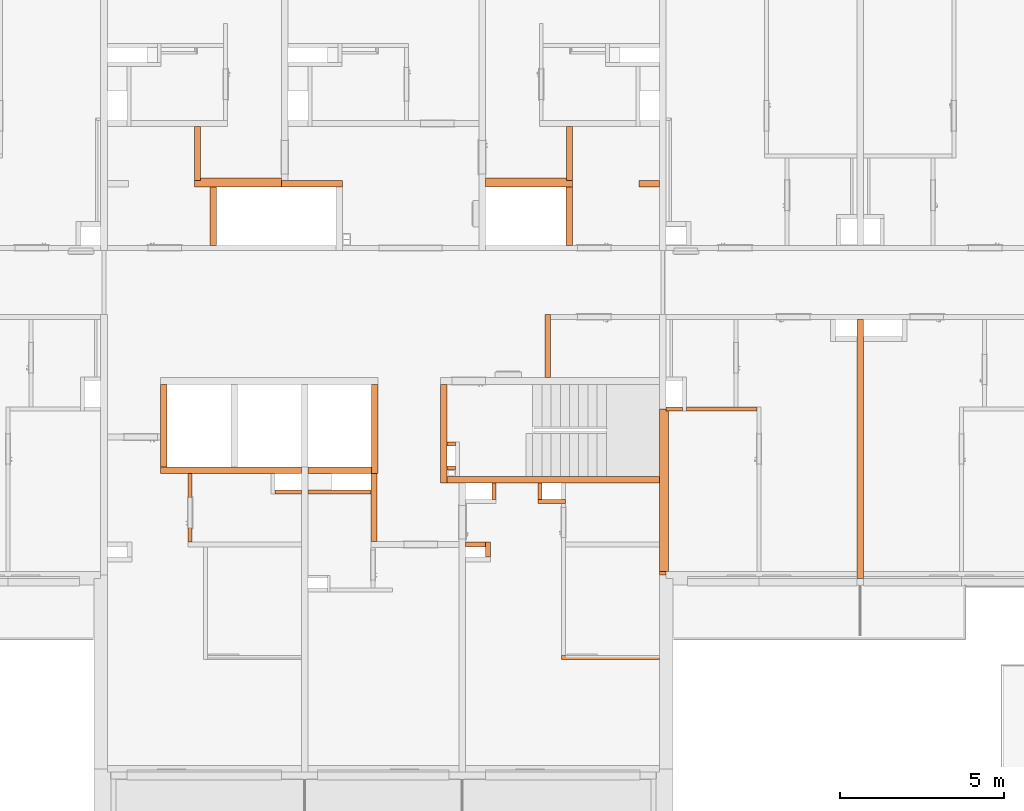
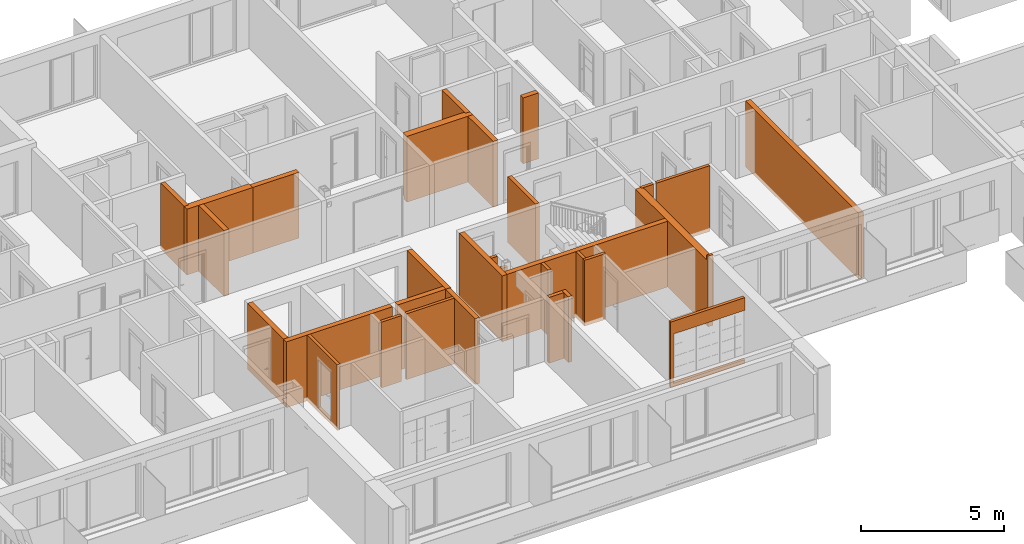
# One storey, part 59 of 66: 29 proxies, 3 openings.
"""IFC2X3 building model written with IfcOpenShell, lengths in millimetres."""

from ifc_helpers import new_model, entity, si_unit, converted_unit, derived_unit, money_unit, direction, frame, origin_with_axes, origin_2d_with_axis, place, context, subcontext, project, spatial, rectangle, extrude, faceted_brep, material, material_list, type_object, element, save


model = new_model("IFC2X3")

# Units and contexts
model_context = context("Model", 3, precision=0.01, world=origin_with_axes(), true_north=direction((0.34421633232, 0.938890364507)))
body_context = subcontext(model_context, "Body", "Model", "MODEL_VIEW")
ifc_project = project(units=[si_unit("LENGTHUNIT", "METRE", prefix="MILLI"), si_unit("AREAUNIT", "SQUARE_METRE"), si_unit("VOLUMEUNIT", "CUBIC_METRE"), converted_unit("PLANEANGLEUNIT", "DEGREE", entity("IfcPlaneAngleMeasure", 0.0174532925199), si_unit("PLANEANGLEUNIT", "RADIAN"), dimensions=[0, 0, 0, 0, 0, 0, 0]), si_unit("SOLIDANGLEUNIT", "STERADIAN"), money_unit("USD"), converted_unit("TIMEUNIT", "Year", entity("IfcTimeMeasure", 31556926.0), si_unit("TIMEUNIT", "SECOND"), dimensions=[0, 0, 1, 0, 0, 0, 0]), si_unit("MASSUNIT", "GRAM", prefix="KILO"), si_unit("THERMODYNAMICTEMPERATUREUNIT", "DEGREE_CELSIUS"), si_unit("LUMINOUSINTENSITYUNIT", "LUMEN"), si_unit("ENERGYUNIT", "JOULE", prefix="MEGA"), derived_unit("THERMALCONDUCTANCEUNIT", [(si_unit("POWERUNIT", "WATT"), 1), (si_unit("LENGTHUNIT", "METRE"), -1), (si_unit("THERMODYNAMICTEMPERATUREUNIT", "KELVIN"), -1)]), derived_unit("SPECIFICHEATCAPACITYUNIT", [(si_unit("ENERGYUNIT", "JOULE"), 1), (si_unit("MASSUNIT", "GRAM", prefix="KILO"), -1), (si_unit("THERMODYNAMICTEMPERATUREUNIT", "KELVIN"), -1)]), derived_unit("MASSDENSITYUNIT", [(si_unit("MASSUNIT", "GRAM", prefix="KILO"), 1), (si_unit("VOLUMEUNIT", "CUBIC_METRE"), -1)])], contexts=[model_context])

# Site, building, storey
site_placement = place(None, origin_with_axes())
site = spatial("IfcSite", under=ifc_project, at=site_placement, Name="USTRONIE MORSKIE", CompositionType="ELEMENT")
building_placement = place(site_placement, origin_with_axes())
building = spatial("IfcBuilding", under=site, at=building_placement, Name="Budynek", CompositionType="ELEMENT")
storey_placement = place(building_placement, frame((0.0, 0.0, 10000.0), z_axis=(0.0, 0.0, 1.0), x_axis=(1.0, 0.0, 0.0)))
storey = spatial("IfcBuildingStorey", under=building, at=storey_placement, Name="PIĘTRO 3", CompositionType="ELEMENT", Elevation=10000.0)

# Proxies
ifc_material_1 = material(Name="Bloczki silikatowe")
building_element_proxy_type_1 = type_object("IfcBuildingElementProxyType", Name="Bloczki silikatowe 120", PredefinedType="NOTDEFINED")
proxy_1_placement = place(storey_placement, frame((389757.920919, 730821.199036, -230.0), z_axis=(0.0, 0.0, 1.0), x_axis=(1.0, 0.0, 0.0)))
element("IfcBuildingElementProxy", 1, at=proxy_1_placement, inside=storey, type_object=building_element_proxy_type_1, material=ifc_material_1, Name="SW-04", context=body_context, shape_type="Brep", body=[
    faceted_brep([(250.0, 0.0, 2870.0), (250.0, 0.0, 70.0), (250.0, 120.0, 70.0), (250.0, 120.0, 2870.0), (0.0, 0.0, 2870.0), (0.0, 0.0, 70.0), (0.0, 120.0, 70.0), (0.0, 120.0, 2870.0)], [[[0, 1, 2, 3]], [[4, 5, 1, 0]], [[5, 6, 2, 1]], [[3, 2, 6, 7]], [[4, 0, 3, 7]], [[7, 6, 5, 4]]]),
])
proxy_2_placement = place(storey_placement, frame((391117.92182, 729201.199036, -160.0), z_axis=(0.0, 0.0, 1.0), x_axis=(0.0, 1.0, 0.0)))
element("IfcBuildingElementProxy", 2, at=proxy_2_placement, inside=storey, type_object=building_element_proxy_type_1, material=ifc_material_1, Name="SW-04", context=body_context, shape_type="Brep", body=[
    faceted_brep([(500.0, -120.0, 2800.0), (500.0, 0.0, 2800.0), (0.0, 0.0, 2800.0), (0.0, -120.0, 2800.0), (500.0, -120.0, 0.0), (500.0, 0.0, 0.0), (0.0, 0.0, 0.0), (0.0, -120.0, 0.0)], [[[0, 1, 2, 3]], [[1, 0, 4, 5]], [[1, 5, 6, 2]], [[7, 3, 2, 6]], [[4, 0, 3, 7]], [[5, 4, 7, 6]]]),
])
proxy_3_placement = place(storey_placement, frame((392577.920919, 729201.199036, -160.0), z_axis=(0.0, 0.0, 1.0), x_axis=(0.0, 1.0, 0.0)))
element("IfcBuildingElementProxy", 3, at=proxy_3_placement, inside=storey, type_object=building_element_proxy_type_1, material=ifc_material_1, Name="SW-04", context=body_context, shape_type="Brep", body=[
    faceted_brep([(500.0, 60.0, 0.0), (500.0, -60.0, 0.0), (0.0, -60.0, 0.0), (0.0, 60.0, 0.0), (500.0, 60.0, 2800.0), (500.0, -60.0, 2800.0), (0.0, -60.0, 2800.0), (0.0, 60.0, 2800.0)], [[[0, 1, 2, 3]], [[1, 0, 4, 5]], [[1, 5, 6, 2]], [[7, 3, 2, 6]], [[4, 0, 3, 7]], [[5, 4, 7, 6]]]),
])

# Proxy, opening
proxy_4_placement = place(storey_placement, frame((396317.920919, 724391.199036, -160.0), z_axis=(0.0, 0.0, 1.0), x_axis=(-1.0, 0.0, 0.0)))
proxy_4 = element("IfcBuildingElementProxy", 4, at=proxy_4_placement, inside=storey, type_object=building_element_proxy_type_1, material=ifc_material_1, Name="SW-04", context=body_context, shape_type="Brep", body=[
    faceted_brep([(3080.0, 59.9999999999, 0.0), (3080.0, -59.9999999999, 0.0), (100.0, -59.9999999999, 0.0), (100.0, 59.9999999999, 0.0), (3080.0, 59.9999999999, 2800.0), (3080.0, -59.9999999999, 2800.0), (100.0, -59.9999999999, 2800.0), (100.0, 59.9999999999, 2800.0)], [[[0, 1, 2, 3]], [[1, 0, 4, 5]], [[1, 5, 6, 2]], [[7, 3, 2, 6]], [[4, 0, 3, 7]], [[5, 4, 7, 6]]]),
])
opening_1_placement = place(proxy_4_placement, frame((1530.0, 0.0, 160.0), z_axis=(0.0, 0.0, 1.0), x_axis=(1.0, 0.0, 0.0)))
element("IfcOpeningElement", 5, at=opening_1_placement, cuts=proxy_4, Name="D-WC", context=body_context, shape_type="SweptSolid", body=[
    extrude(rectangle(XDim=2860.0, YDim=2100.0, at=origin_2d_with_axis()), frame((0.0, 120.0, 1050.0), z_axis=(0.0, 1.0, 0.0), x_axis=(-1.0, 0.0, 0.0)), (0.0, 0.0, -1.0), 360.0),
])

# Proxy
proxy_5_placement = place(storey_placement, frame((387527.920919, 729491.199036, -160.0), z_axis=(0.0, 0.0, 1.0), x_axis=(-1.0, 0.0, 0.0)))
element("IfcBuildingElementProxy", 6, at=proxy_5_placement, inside=storey, type_object=building_element_proxy_type_1, material=ifc_material_1, Name="SW-04", context=body_context, shape_type="Brep", body=[
    faceted_brep([(90.0, 0.0, 0.0), (2010.0, 0.0, 0.0), (2010.0, 0.0, 2800.0), (90.0, 0.0, 2800.0), (90.0, 120.0, 0.0), (2010.0, 120.0, 0.0), (2010.0, 120.0, 2800.0), (90.0, 120.0, 2800.0)], [[[0, 1, 2, 3]], [[4, 5, 1, 0]], [[5, 6, 2, 1]], [[3, 2, 6, 7]], [[7, 4, 0, 3]], [[7, 6, 5, 4]]]),
])

# Proxy, opening
proxy_6_placement = place(storey_placement, frame((381937.920919, 727826.199036, -160.0), z_axis=(0.0, 0.0, 1.0), x_axis=(0.0, 1.0, 0.0)))
proxy_6 = element("IfcBuildingElementProxy", 7, at=proxy_6_placement, inside=storey, type_object=building_element_proxy_type_1, material=ifc_material_1, Name="SW-04", context=body_context, shape_type="Brep", body=[
    faceted_brep([(2165.0, 60.0, 0.0), (2165.0, -60.0, 0.0), (75.0, -60.0, 0.0), (75.0, 60.0, 0.0), (2165.0, 60.0, 2800.0), (2165.0, -60.0, 2800.0), (75.0, -60.0, 2800.0), (75.0, 60.0, 2800.0)], [[[0, 1, 2, 3]], [[1, 0, 4, 5]], [[1, 5, 6, 2]], [[7, 3, 2, 6]], [[4, 0, 3, 7]], [[5, 4, 7, 6]]]),
])
opening_2_placement = place(proxy_6_placement, frame((965.0, 0.0, 160.0), z_axis=(0.0, 0.0, 1.0), x_axis=(1.0, 0.0, 0.0)))
element("IfcOpeningElement", 8, at=opening_2_placement, cuts=proxy_6, Name="Dw.4", context=body_context, shape_type="SweptSolid", body=[
    extrude(rectangle(XDim=920.0, YDim=2070.0, at=origin_2d_with_axis()), frame((0.0, -120.0, 1035.0), z_axis=(0.0, 1.0, 0.0), x_axis=(1.0, 0.0, 0.0)), (0.0, 0.0, 1.0), 360.0),
    extrude(rectangle(XDim=994.0, YDim=2177.0, at=origin_2d_with_axis()), frame((0.0, -60.0, 1088.5), z_axis=(0.0, 1.0, 0.0), x_axis=(1.0, 0.0, 0.0)), (0.0, 0.0, -1.0), 120.0),
    extrude(rectangle(XDim=994.0, YDim=2177.0, at=origin_2d_with_axis()), frame((0.0, 60.0, 1088.5), z_axis=(0.0, -1.0, 0.0), x_axis=(1.0, 0.0, 0.0)), (0.0, 0.0, -1.0), 120.0),
])

# Proxies
proxy_7_placement = place(storey_placement, frame((392577.920919, 729201.199036, -160.0), z_axis=(0.0, 0.0, 1.0), x_axis=(1.0, 0.0, 0.0)))
element("IfcBuildingElementProxy", 9, at=proxy_7_placement, inside=storey, type_object=building_element_proxy_type_1, material=ifc_material_1, Name="SW-04", context=body_context, shape_type="Brep", body=[
    faceted_brep([(780.0, -120.0, 2800.0), (780.0, 0.0, 2800.0), (-60.0, 0.0, 2800.0), (-60.0, -120.0, 2800.0), (780.0, -120.0, 0.0), (780.0, 0.0, 0.0), (-60.0, 0.0, 0.0), (-60.0, -120.0, 0.0)], [[[0, 1, 2, 3]], [[1, 0, 4, 5]], [[1, 5, 6, 2]], [[7, 3, 2, 6]], [[4, 0, 3, 7]], [[5, 4, 7, 6]]]),
])
proxy_8_placement = place(storey_placement, frame((396317.920919, 731951.199132, -160.0), z_axis=(0.0, 0.0, 1.0), x_axis=(1.0, 0.0, 0.0)))
element("IfcBuildingElementProxy", 10, at=proxy_8_placement, inside=storey, type_object=building_element_proxy_type_1, material=ifc_material_1, Name="SW-04", context=body_context, shape_type="Brep", body=[
    faceted_brep([(600.004475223, 59.9999999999, 0.0), (100.0, 59.9999999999, 0.0), (100.0, 59.9999999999, 2800.0), (600.004475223, 59.9999999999, 2800.0), (100.0, -59.9999999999, 0.0), (100.0, 0.0, 0.0), (600.008213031, -59.9999999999, 0.0), (100.0, 0.0, 2800.0), (100.0, -59.9999999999, 2800.0), (600.008213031, -59.9999999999, 2800.0)], [[[0, 1, 2, 3]], [[4, 5, 1, 0, 6]], [[5, 7, 2, 1]], [[2, 7, 8, 9, 3]], [[6, 0, 3, 9]], [[4, 8, 7, 5]], [[9, 8, 4, 6]]]),
    faceted_brep([(720.004475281, 59.9999999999, 0.0), (720.004475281, 59.9999999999, 2800.0), (2860.01935038, 59.9999999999, 2800.0), (2860.01935038, 59.9999999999, 0.0), (720.008213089, -59.9999999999, 2800.0), (720.008213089, -59.9999999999, 0.0), (2860.01935038, -59.9999999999, 2800.0), (2860.01935038, -59.9999999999, 0.0)], [[[0, 1, 2, 3]], [[4, 1, 0, 5]], [[1, 4, 6, 2]], [[3, 2, 6, 7]], [[5, 0, 3, 7]], [[4, 5, 7, 6]]]),
])
proxy_9_placement = place(storey_placement, frame((385417.920919, 729491.199036, -160.0), z_axis=(0.0, 0.0, 1.0), x_axis=(-1.0, 0.0, 0.0)))
element("IfcBuildingElementProxy", 11, at=proxy_9_placement, inside=storey, type_object=building_element_proxy_type_1, material=ifc_material_1, Name="SW-04", context=body_context, shape_type="Brep", body=[
    faceted_brep([(900.00090117, 120.0, 0.0), (900.00090117, 0.0, 0.0), (100.0, 0.0, 0.0), (100.0, 120.0, 0.0), (900.00090117, 120.0, 2800.0), (900.00090117, 0.0, 2800.0), (100.0, 0.0, 2800.0), (100.0, 120.0, 2800.0)], [[[0, 1, 2, 3]], [[1, 0, 4, 5]], [[1, 5, 6, 2]], [[7, 3, 2, 6]], [[4, 0, 3, 7]], [[5, 4, 7, 6]]]),
])
proxy_10_placement = place(storey_placement, frame((389757.920919, 730101.199036, -230.0), z_axis=(0.0, 0.0, 1.0), x_axis=(1.0, 0.0, 0.0)))
element("IfcBuildingElementProxy", 12, at=proxy_10_placement, inside=storey, type_object=building_element_proxy_type_1, material=ifc_material_1, Name="SW-04", context=body_context, shape_type="Brep", body=[
    faceted_brep([(250.0, 0.0, 2870.0), (250.0, 0.0, 70.0), (250.0, 120.0, 70.0), (250.0, 120.0, 2870.0), (0.0, 0.0, 2870.0), (0.0, 0.0, 70.0), (0.0, 120.0, 70.0), (0.0, 120.0, 2870.0)], [[[0, 1, 2, 3]], [[4, 5, 1, 0]], [[5, 6, 2, 1]], [[3, 2, 6, 7]], [[4, 0, 3, 7]], [[7, 6, 5, 4]]]),
])
building_element_proxy_type_2 = type_object("IfcBuildingElementProxyType", Name="Bloczki silikatowe 180", PredefinedType="NOTDEFINED")
proxy_11_placement = place(storey_placement, frame((393567.920919, 738801.199036, -160.0), z_axis=(0.0, 0.0, 1.0), x_axis=(0.0, 1.0, 0.0)))
element("IfcBuildingElementProxy", 13, at=proxy_11_placement, inside=storey, type_object=building_element_proxy_type_2, material=ifc_material_1, Name="SW-02", context=body_context, shape_type="Brep", body=[
    faceted_brep([(1740.0, 180.0, 0.0), (1740.0, 180.0, 2800.0), (1740.0, 0.0, 2800.0), (1740.0, 0.0, 0.0), (100.0, 180.0, 0.0), (100.0, 180.0, 2800.0), (100.0, 0.0, 2800.0), (100.0, 0.0, 0.0)], [[[0, 1, 2, 3]], [[4, 5, 1, 0]], [[5, 6, 2, 1]], [[3, 2, 6, 7]], [[4, 0, 3, 7]], [[7, 6, 5, 4]]]),
])
proxy_12_placement = place(storey_placement, frame((382067.920919, 738801.199036, -160.0), z_axis=(0.0, 0.0, 1.0), x_axis=(0.0, 1.0, 0.0)))
element("IfcBuildingElementProxy", 14, at=proxy_12_placement, inside=storey, type_object=building_element_proxy_type_2, material=ifc_material_1, Name="SW-02", context=body_context, shape_type="Brep", body=[
    faceted_brep([(1740.0, 0.0, 0.0), (1740.0, 0.0, 2800.0), (1740.0, -180.0, 2800.0), (1740.0, -180.0, 0.0), (100.0, 0.0, 0.0), (100.0, 0.0, 2800.0), (100.0, -180.0, 2800.0), (100.0, -180.0, 0.0)], [[[0, 1, 2, 3]], [[4, 5, 1, 0]], [[5, 6, 2, 1]], [[3, 2, 6, 7]], [[0, 3, 7, 4]], [[7, 6, 5, 4]]]),
])

# Proxy, opening
proxy_13_placement = place(storey_placement, frame((387527.920919, 730091.199036, -160.0), z_axis=(0.0, 0.0, 1.0), x_axis=(0.0, -1.0, 0.0)))
proxy_13 = element("IfcBuildingElementProxy", 15, at=proxy_13_placement, inside=storey, type_object=building_element_proxy_type_2, material=ifc_material_1, Name="SW-02", context=body_context, shape_type="Brep", body=[
    faceted_brep([(2175.0, 90.0, 0.0), (2175.0, -90.0, 0.0), (100.0, -90.0, 0.0), (100.0, 90.0, 0.0), (2175.0, 90.0, 2800.0), (2175.0, -90.0, 2800.0), (100.0, -90.0, 2800.0), (100.0, 90.0, 2800.0)], [[[0, 1, 2, 3]], [[1, 0, 4, 5]], [[1, 5, 6, 2]], [[7, 3, 2, 6]], [[4, 0, 3, 7]], [[5, 4, 7, 6]]]),
])
opening_3_placement = place(proxy_13_placement, frame((350.0, 0.0, 560.0), z_axis=(0.0, 0.0, 1.0), x_axis=(1.0, 0.0, 0.0)))
element("IfcOpeningElement", 16, at=opening_3_placement, cuts=proxy_13, Name="R.01", context=body_context, shape_type="SweptSolid", body=[
    extrude(rectangle(XDim=500.0, YDim=1600.0, at=origin_2d_with_axis()), frame((0.0, 90.0, 800.0), z_axis=(0.0, -1.0, 0.0), x_axis=(1.0, 0.0, 0.0)), (0.0, 0.0, -1.0), 180.0),
    extrude(rectangle(XDim=500.0, YDim=1600.0, at=origin_2d_with_axis()), frame((0.0, 90.0, 800.0), z_axis=(0.0, 1.0, 0.0), x_axis=(1.0, 0.0, 0.0)), (0.0, 0.0, -1.0), 180.0),
])

# Proxies
building_element_proxy_type_3 = type_object("IfcBuildingElementProxyType", Name="Bloczki silikatowe 150", PredefinedType="NOTDEFINED")
proxy_14_placement = place(storey_placement, frame((390917.920919, 727451.199036, -160.0), z_axis=(0.0, 0.0, 1.0), x_axis=(0.0, 1.0, 0.0)))
element("IfcBuildingElementProxy", 17, at=proxy_14_placement, inside=storey, type_object=building_element_proxy_type_3, material=ifc_material_1, Name="SW-03", context=body_context, shape_type="Brep", body=[
    faceted_brep([(450.0, -150.0, 2800.0), (450.0, 0.0, 2800.0), (0.0, 0.0, 2800.0), (0.0, -150.0, 2800.0), (450.0, -150.0, 0.0), (450.0, 0.0, 0.0), (0.0, 0.0, 0.0), (0.0, -150.0, 0.0)], [[[0, 1, 2, 3]], [[1, 0, 4, 5]], [[1, 5, 6, 2]], [[7, 3, 2, 6]], [[4, 0, 3, 7]], [[5, 4, 7, 6]]]),
])
proxy_15_placement = place(storey_placement, frame((390217.920919, 727751.199036, -160.0), z_axis=(0.0, 0.0, 1.0), x_axis=(1.0, 0.0, 0.0)))
element("IfcBuildingElementProxy", 18, at=proxy_15_placement, inside=storey, type_object=building_element_proxy_type_3, material=ifc_material_1, Name="SW-03", context=body_context, shape_type="Brep", body=[
    faceted_brep([(700.0, 0.0, 2800.0), (700.0, 150.0, 2800.0), (100.0, 150.0, 2800.0), (100.0, 0.0, 2800.0), (700.0, 0.0, 0.0), (700.0, 150.0, 0.0), (100.0, 150.0, 0.0), (100.0, 0.0, 0.0)], [[[0, 1, 2, 3]], [[1, 0, 4, 5]], [[1, 5, 6, 2]], [[7, 3, 2, 6]], [[4, 0, 3, 7]], [[5, 4, 7, 6]]]),
])
ifc_material_2 = material(Name="Beton konstrukcyjny B25")
building_element_proxy_type_4 = type_object("IfcBuildingElementProxyType", Name="Beton konstrukcyjny B25 200", PredefinedType="NOTDEFINED")
proxy_16_placement = place(storey_placement, frame((382737.920919, 738801.199036, -160.0), z_axis=(0.0, 0.0, 1.0), x_axis=(0.0, -1.0, 0.0)))
element("IfcBuildingElementProxy", 19, at=proxy_16_placement, inside=storey, type_object=building_element_proxy_type_4, material=ifc_material_2, Name="SW-01", context=body_context, shape_type="Brep", body=[
    faceted_brep([(1870.0, -200.0, 2800.0), (1870.0, 0.0, 2800.0), (100.0, 0.0, 2800.0), (100.0, -200.0, 2800.0), (1870.0, -200.0, 0.0), (1870.0, 0.0, 0.0), (100.0, 0.0, 0.0), (100.0, -200.0, 0.0)], [[[0, 1, 2, 3]], [[1, 0, 4, 5]], [[1, 5, 6, 2]], [[7, 3, 2, 6]], [[4, 0, 3, 7]], [[5, 4, 7, 6]]]),
])
proxy_17_placement = place(storey_placement, frame((381137.920919, 732801.199036, -160.0), z_axis=(0.0, 0.0, 1.0), x_axis=(0.0, -1.0, 0.0)))
element("IfcBuildingElementProxy", 20, at=proxy_17_placement, inside=storey, type_object=building_element_proxy_type_4, material=ifc_material_2, Name="SW-01", context=body_context, shape_type="Brep", body=[
    faceted_brep([(2610.0, -100.0, 2800.0), (2610.0, 100.0, 2800.0), (100.0, 100.0, 2800.0), (100.0, -100.0, 2800.0), (2610.0, -100.0, 0.0), (2610.0, 100.0, 0.0), (100.0, 100.0, 0.0), (100.0, -100.0, 0.0)], [[[0, 1, 2, 3]], [[1, 0, 4, 5]], [[1, 5, 6, 2]], [[7, 3, 2, 6]], [[4, 0, 3, 7]], [[5, 4, 7, 6]]]),
])
proxy_18_placement = place(storey_placement, frame((393367.920919, 736851.199036, -160.0), z_axis=(0.0, 0.0, 1.0), x_axis=(0.0, 1.0, 0.0)))
element("IfcBuildingElementProxy", 21, at=proxy_18_placement, inside=storey, type_object=building_element_proxy_type_4, material=ifc_material_2, Name="SW-01", context=body_context, shape_type="Brep", body=[
    faceted_brep([(1850.0, 0.0, 0.0), (1850.0, 0.0, 2800.0), (1850.0, -200.0, 2800.0), (1850.0, -200.0, 0.0), (80.0, 0.0, 0.0), (80.0, 0.0, 2800.0), (80.0, -200.0, 2800.0), (80.0, -200.0, 0.0)], [[[0, 1, 2, 3]], [[4, 5, 1, 0]], [[5, 6, 2, 1]], [[3, 2, 6, 7]], [[4, 0, 3, 7]], [[7, 6, 5, 4]]]),
])
proxy_19_placement = place(storey_placement, frame((389657.920919, 729801.199036, -160.0), z_axis=(0.0, 0.0, 1.0), x_axis=(0.0, 1.0, 0.0)))
element("IfcBuildingElementProxy", 22, at=proxy_19_placement, inside=storey, type_object=building_element_proxy_type_4, material=ifc_material_2, Name="SW-01", context=body_context, shape_type="Brep", body=[
    faceted_brep([(2900.0, -100.0, 2800.0), (2900.0, 100.0, 2800.0), (-100.0, 100.0, 2800.0), (-100.0, -100.0, 2800.0), (2900.0, -100.0, 0.0), (2900.0, 100.0, 0.0), (-100.0, 100.0, 0.0), (-100.0, -100.0, 0.0)], [[[0, 1, 2, 3]], [[1, 0, 4, 5]], [[1, 5, 6, 2]], [[7, 3, 2, 6]], [[4, 0, 3, 7]], [[5, 4, 7, 6]]]),
])
proxy_20_placement = place(storey_placement, frame((386467.920919, 738801.199036, -160.0), z_axis=(0.0, 0.0, 1.0), x_axis=(-1.0, 0.0, 0.0)))
element("IfcBuildingElementProxy", 23, at=proxy_20_placement, inside=storey, type_object=building_element_proxy_type_4, material=ifc_material_2, Name="SW-01", context=body_context, shape_type="Brep", body=[
    faceted_brep([(-100.0, -100.0, 2800.0), (1750.0, -100.0, 2800.0), (1750.0, 100.0, 2800.0), (-100.0, 100.0, 2800.0), (-100.0, -100.0, 0.0), (1750.0, -100.0, 0.0), (1750.0, 100.0, 0.0), (-100.0, 100.0, 0.0)], [[[0, 1, 2, 3]], [[4, 5, 1, 0]], [[2, 1, 5, 6]], [[3, 2, 6, 7]], [[4, 0, 3, 7]], [[7, 6, 5, 4]]]),
])
proxy_21_placement = place(storey_placement, frame((387557.920919, 732801.199036, -160.0), z_axis=(0.0, 0.0, 1.0), x_axis=(0.0, -1.0, 0.0)))
element("IfcBuildingElementProxy", 24, at=proxy_21_placement, inside=storey, type_object=building_element_proxy_type_4, material=ifc_material_2, Name="SW-01", context=body_context, shape_type="Brep", body=[
    faceted_brep([(2810.0, -100.0, 2800.0), (2810.0, 100.0, 2800.0), (100.0, 100.0, 2800.0), (100.0, -100.0, 2800.0), (2810.0, -100.0, 0.0), (2810.0, 100.0, 0.0), (100.0, 100.0, 0.0), (100.0, -100.0, 0.0)], [[[0, 1, 2, 3]], [[1, 0, 4, 5]], [[1, 5, 6, 2]], [[7, 3, 2, 6]], [[4, 0, 3, 7]], [[5, 4, 7, 6]]]),
])
proxy_22_placement = place(storey_placement, frame((402317.920919, 726901.199036, -160.0), z_axis=(0.0, 0.0, 1.0), x_axis=(0.0, 1.0, 0.0)))
element("IfcBuildingElementProxy", 25, at=proxy_22_placement, inside=storey, type_object=building_element_proxy_type_4, material=ifc_material_2, Name="SW-01", context=body_context, shape_type="Brep", body=[
    faceted_brep([(-100.0, -100.0, 2800.0), (7770.00189405, -100.0, 2800.0), (7770.00195604, 100.0, 2800.0), (-100.0, 100.0, 2800.0), (-100.0, -100.0, 0.0), (7770.00189405, -100.0, 0.0), (7770.00195604, 100.0, 0.0), (-100.0, 100.0, 0.0)], [[[0, 1, 2, 3]], [[4, 5, 1, 0]], [[6, 2, 1, 5]], [[3, 2, 6, 7]], [[7, 4, 0, 3]], [[7, 6, 5, 4]]]),
])
proxy_23_placement = place(storey_placement, frame((387557.920919, 730091.199036, -160.0), z_axis=(0.0, 0.0, 1.0), x_axis=(-1.0, 0.0, 0.0)))
element("IfcBuildingElementProxy", 26, at=proxy_23_placement, inside=storey, type_object=building_element_proxy_type_4, material=ifc_material_2, Name="SW-01", context=body_context, shape_type="Brep", body=[
    faceted_brep([(6520.0, -100.0, 2800.0), (6420.0, -100.0, 2800.0), (2240.0, -100.0, 2800.0), (2240.0, -100.0, 0.0), (6520.0, -100.0, 0.0), (6520.0, 100.0, 2800.0), (6420.0, 100.0, 2800.0), (2240.0, 100.0, 2800.0), (2240.0, 100.0, 0.0), (6520.0, 100.0, 0.0)], [[[0, 1, 2, 3, 4]], [[5, 6, 1, 0]], [[6, 7, 2, 1]], [[3, 2, 7, 8]], [[9, 4, 3, 8]], [[0, 4, 9, 5]], [[8, 7, 6, 5, 9]]]),
    faceted_brep([(2040.0, -100.0, 0.0), (2040.0, -100.0, 2800.0), (100.0, -100.0, 2800.0), (100.0, -100.0, 0.0), (2040.0, 100.0, 0.0), (2040.0, 100.0, 2800.0), (100.0, 100.0, 2800.0), (100.0, 100.0, 0.0)], [[[0, 1, 2, 3]], [[4, 5, 1, 0]], [[5, 6, 2, 1]], [[3, 2, 6, 7]], [[3, 7, 4, 0]], [[7, 6, 5, 4]]]),
])
proxy_24_placement = place(storey_placement, frame((396317.920919, 729801.199036, -160.0), z_axis=(0.0, 0.0, 1.0), x_axis=(-1.0, 0.0, 0.0)))
element("IfcBuildingElementProxy", 27, at=proxy_24_placement, inside=storey, type_object=building_element_proxy_type_4, material=ifc_material_2, Name="SW-01", context=body_context, shape_type="Brep", body=[
    faceted_brep([(100.0, -100.0, 2800.0), (100.0, -100.0, 0.0), (6560.0, -100.0, 0.0), (6560.0, -100.0, 2800.0), (100.0, 100.0, 2800.0), (100.0, 100.0, 0.0), (6560.0, 100.0, 0.0), (6560.0, 100.0, 2800.0)], [[[0, 1, 2, 3]], [[1, 0, 4, 5]], [[1, 5, 6, 2]], [[6, 7, 3, 2]], [[4, 0, 3, 7]], [[5, 4, 7, 6]]]),
])
proxy_25_placement = place(storey_placement, frame((395597.920919, 738801.199036, -160.0), z_axis=(0.0, 0.0, 1.0), x_axis=(1.0, 0.0, 0.0)))
element("IfcBuildingElementProxy", 28, at=proxy_25_placement, inside=storey, type_object=building_element_proxy_type_4, material=ifc_material_2, Name="SW-01", context=body_context, shape_type="Brep", body=[
    faceted_brep([(619.992905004, 100.0, 0.0), (619.992660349, -100.0, 0.0), (0.0, -100.0, 0.0), (0.0, 100.0, 0.0), (619.992905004, 100.0, 2800.0), (619.992660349, -100.0, 2800.0), (0.0, -100.0, 2800.0), (0.0, 100.0, 2800.0)], [[[0, 1, 2, 3]], [[1, 0, 4, 5]], [[1, 5, 6, 2]], [[7, 3, 2, 6]], [[4, 0, 3, 7]], [[5, 4, 7, 6]]]),
])
building_element_proxy_type_5 = type_object("IfcBuildingElementProxyType", Name="Beton konstrukcyjny B25 160", PredefinedType="NOTDEFINED")
proxy_26_placement = place(storey_placement, frame((392817.920919, 732801.199036, -160.0), z_axis=(0.0, 0.0, 1.0), x_axis=(0.0, 1.0, 0.0)))
element("IfcBuildingElementProxy", 29, at=proxy_26_placement, inside=storey, type_object=building_element_proxy_type_5, material=ifc_material_2, Name="SW-01", context=body_context, shape_type="Brep", body=[
    faceted_brep([(2030.0048448, -80.0, 2800.0), (2030.0048944, 80.0, 2800.0), (100.0, 80.0, 2800.0), (100.0, -80.0, 2800.0), (2030.0048448, -80.0, 0.0), (2030.0048944, 80.0, 0.0), (100.0, 80.0, 0.0), (100.0, -80.0, 0.0)], [[[0, 1, 2, 3]], [[1, 0, 4, 5]], [[1, 5, 6, 2]], [[7, 3, 2, 6]], [[4, 0, 3, 7]], [[5, 4, 7, 6]]]),
])
ifc_material_3 = material(Name="Izolacja akustyczna")
ifc_material_4 = material(Name="Płyta GK")
ifc_material_list_1 = material_list([ifc_material_2, ifc_material_3, ifc_material_4])
building_element_proxy_type_6 = type_object("IfcBuildingElementProxyType", Name="20+5 AKU 275", PredefinedType="NOTDEFINED")
proxy_27_placement = place(storey_placement, frame((396317.920919, 726901.199036, -160.0), z_axis=(0.0, 0.0, 1.0), x_axis=(0.0, 1.0, 0.0)))
element("IfcBuildingElementProxy", 30, at=proxy_27_placement, inside=storey, type_object=building_element_proxy_type_6, material=ifc_material_list_1, Name="Œciana-007", context=body_context, shape_type="Brep", body=[
    faceted_brep([(5050.00009633, 100.0, 2800.0), (100.0, 100.0, 2800.0), (100.0, -100.0, 2800.0), (5050.00009633, -100.0, 2800.0), (5050.00009633, 100.0, 0.0), (0.0, 100.0, 0.0), (0.0, 100.0, 3000.0), (100.0, 100.0, 3000.0), (100.0, -100.0, 3000.0), (0.0, -100.0, 3000.0), (0.0, -100.0, 0.0), (5050.00009633, -100.0, 0.0)], [[[0, 1, 2, 3]], [[1, 0, 4, 5, 6, 7]], [[7, 8, 2, 1]], [[2, 8, 9, 10, 11, 3]], [[0, 3, 11, 4]], [[11, 10, 5, 4]], [[10, 9, 6, 5]], [[8, 7, 6, 9]]]),
    faceted_brep([(4990.00009633, -100.0, 2800.0), (100.0, -100.0, 2800.0), (100.0, -150.0, 2800.0), (4990.00009633, -150.0, 2800.0), (4990.00009633, -100.0, 145.0), (100.0, -100.0, 145.0), (100.0, -150.0, 145.0), (4990.00009633, -150.0, 145.0)], [[[0, 1, 2, 3]], [[1, 0, 4, 5]], [[2, 1, 5, 6]], [[2, 6, 7, 3]], [[0, 3, 7, 4]], [[7, 6, 5, 4]]]),
    faceted_brep([(4990.00009633, -150.0, 2800.0), (100.0, -150.0, 2800.0), (100.0, -175.0, 2800.0), (4990.00009633, -175.0, 2800.0), (4990.00009633, -150.0, 145.0), (100.0, -150.0, 145.0), (100.0, -175.0, 145.0), (4990.00009633, -175.0, 145.0)], [[[0, 1, 2, 3]], [[1, 0, 4, 5]], [[2, 1, 5, 6]], [[2, 6, 7, 3]], [[0, 3, 7, 4]], [[7, 6, 5, 4]]]),
])
proxy_28_placement = place(storey_placement, frame((384717.920919, 738801.199036, -160.0), z_axis=(0.0, 0.0, 1.0), x_axis=(-1.0, 0.0, 0.0)))
element("IfcBuildingElementProxy", 31, at=proxy_28_placement, inside=storey, type_object=building_element_proxy_type_6, material=ifc_material_list_1, Name="SW-01", context=body_context, shape_type="Brep", body=[
    faceted_brep([(2650.0, -100.0, 0.0), (0.0, -100.0, 0.0), (0.0, 100.0, 0.0), (2650.0, 100.0, 0.0), (2650.0, -100.0, 2800.0), (0.0, -100.0, 2800.0), (0.0, 100.0, 2800.0), (2650.0, 100.0, 2800.0)], [[[0, 1, 2, 3]], [[4, 5, 1, 0]], [[2, 1, 5, 6]], [[3, 2, 6, 7]], [[3, 7, 4, 0]], [[7, 6, 5, 4]]]),
    faceted_brep([(0.0, -100.0, 145.0), (2470.0, -100.0, 145.0), (2470.0, -150.0, 145.0), (0.0, -150.0, 145.0), (0.0, -100.0, 2800.0), (2470.0, -100.0, 2800.0), (2470.0, -150.0, 2800.0), (0.0, -150.0, 2800.0)], [[[0, 1, 2, 3]], [[1, 0, 4, 5]], [[2, 1, 5, 6]], [[2, 6, 7, 3]], [[0, 3, 7, 4]], [[6, 5, 4, 7]]]),
    faceted_brep([(0.0, -150.0, 145.0), (2470.0, -150.0, 145.0), (2470.0, -175.0, 145.0), (0.0, -175.0, 145.0), (0.0, -150.0, 2800.0), (2470.0, -150.0, 2800.0), (2470.0, -175.0, 2800.0), (0.0, -175.0, 2800.0)], [[[0, 1, 2, 3]], [[1, 0, 4, 5]], [[2, 1, 5, 6]], [[2, 6, 7, 3]], [[0, 3, 7, 4]], [[6, 5, 4, 7]]]),
])
ifc_material_list_2 = material_list([ifc_material_4, ifc_material_3, ifc_material_2])
proxy_29_placement = place(storey_placement, frame((390817.920919, 738801.199036, -160.0), z_axis=(0.0, 0.0, 1.0), x_axis=(1.0, 0.0, 0.0)))
element("IfcBuildingElementProxy", 32, at=proxy_29_placement, inside=storey, type_object=building_element_proxy_type_6, material=ifc_material_list_2, Name="SW-01", context=body_context, shape_type="Brep", body=[
    faceted_brep([(100.0, 175.0, 2800.0), (2570.0, 175.0, 2800.0), (2570.0, 175.0, 145.0), (100.0, 175.0, 145.0), (2570.0, 150.0, 2800.0), (100.0, 150.0, 2800.0), (2570.0, 150.0, 145.0), (100.0, 150.0, 145.0)], [[[0, 1, 2, 3]], [[4, 1, 0, 5]], [[1, 4, 6, 2]], [[3, 2, 6, 7]], [[3, 7, 5, 0]], [[4, 5, 7, 6]]]),
    faceted_brep([(100.0, 150.0, 2800.0), (2570.0, 150.0, 2800.0), (2570.0, 150.0, 145.0), (100.0, 150.0, 145.0), (2570.0, 100.0, 2800.0), (100.0, 100.0, 2800.0), (2570.0, 100.0, 145.0), (100.0, 100.0, 145.0)], [[[0, 1, 2, 3]], [[4, 1, 0, 5]], [[1, 4, 6, 2]], [[3, 2, 6, 7]], [[3, 7, 5, 0]], [[4, 5, 7, 6]]]),
    faceted_brep([(100.0, 100.0, 2800.0), (2750.0, 100.0, 2800.0), (2750.0, 100.0, 0.0), (100.0, 100.0, 0.0), (2750.0, -100.0, 2800.0), (100.0, -100.0, 2800.0), (2750.0, -100.0, 0.0), (100.0, -100.0, 0.0)], [[[0, 1, 2, 3]], [[4, 1, 0, 5]], [[1, 4, 6, 2]], [[6, 7, 3, 2]], [[5, 0, 3, 7]], [[4, 5, 7, 6]]]),
])

save(model, "model.ifc")
